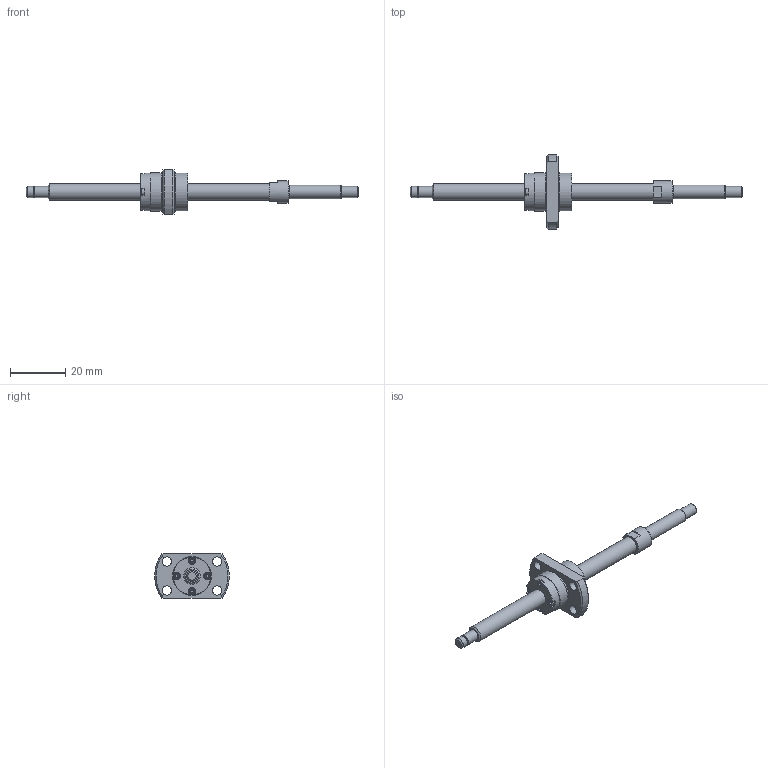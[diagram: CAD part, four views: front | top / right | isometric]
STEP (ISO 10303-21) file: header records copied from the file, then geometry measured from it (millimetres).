
FILE_DESCRIPTION(/* description */ ('STEP AP214'),/* implementation_level */ '2;1');
FILE_NAME(/* name */ 'SG0606-076R120C5B0X(33.5)',/* time_stamp */ '2026-07-20T20:19:08+02:00',/* author */ ('License CC BY-ND 4.0'),/* organization */ ('CADENAS'),/* preprocessor_version */ 'ST-DEVELOPER v20',/* originating_system */ 'PARTsolutions',/* authorisation */ ' ');
FILE_SCHEMA (('AUTOMOTIVE_DESIGN {1 0 10303 214 3 1 1}'));
Length unit declared in the file: millimetre
Products named in the file (3): SG0606-076R120C5B0X(33.5); SG0606-76R120C5B_shaft; SG0606 C5_nut
Assembly tree (2 placements, depth 2):
  SG0606-076R120C5B0X(33.5)
    SG0606-76R120C5B_shaft
    SG0606 C5_nut
Bounding box: 120 x 27 x 16 mm (x, y, z)
Volume: 6048.8 mm3; surface area: 4339.3 mm2
Topology: 2 solids, 2 shells, 106 faces, 239 edges, 156 vertices
Faces by surface type: plane 65, cylinder 27, cone 13, torus 1
Full cylindrical faces by diameter (mm): 2.25 x4, 3.4 x4, 3.7 x1, 4 x3, 5 x1, 6 x2, 8 x1, 13.6 x3, 14 x2
Entity records: 2891 total; most frequent: DIRECTION 494, CARTESIAN_POINT 493, ORIENTED_EDGE 412, EDGE_CURVE 206, AXIS2_PLACEMENT_3D 187, EDGE_LOOP 166, FACE_BOUND 166, VERTEX_POINT 154
